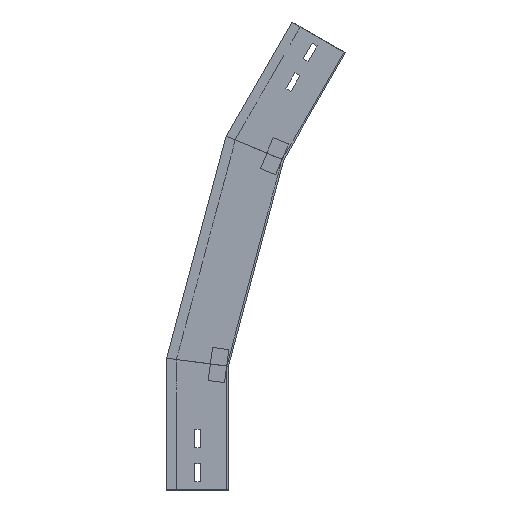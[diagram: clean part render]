
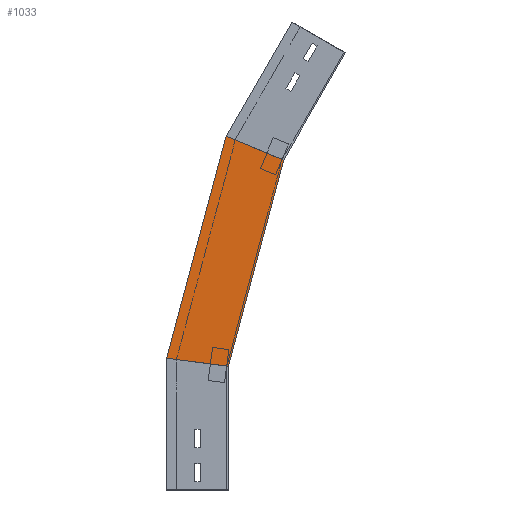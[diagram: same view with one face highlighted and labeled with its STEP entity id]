
A CAD part, left-side view. The second image highlights one B-rep face of the part: STEP entity #1033.
In plain terms, the highlighted planar face has unit normal (-1, 0, 0) as drawn and (1, 0, 0) by its records, which use the part's own axes.
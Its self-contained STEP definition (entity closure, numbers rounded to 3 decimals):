
#60 = PLANE ( 'NONE',  #179 ) ;
#133 = EDGE_CURVE ( 'NONE', #260, #1244, #520, .T. ) ;
#171 = DIRECTION ( 'NONE',  ( 0., -0.259, 0.966 ) ) ;
#179 = AXIS2_PLACEMENT_3D ( 'NONE', #1435, #1193, #626 ) ;
#201 = CARTESIAN_POINT ( 'NONE',  ( 0., 75., 159.874 ) ) ;
#202 = CARTESIAN_POINT ( 'NONE',  ( 0., -67.034, 400.175 ) ) ;
#243 = VERTEX_POINT ( 'NONE', #537 ) ;
#260 = VERTEX_POINT ( 'NONE', #201 ) ;
#295 = ORIENTED_EDGE ( 'NONE', *, *, #133, .T. ) ;
#326 = EDGE_CURVE ( 'NONE', #260, #243, #792, .T. ) ;
#390 = EDGE_CURVE ( 'NONE', #1244, #845, #648, .T. ) ;
#424 = EDGE_LOOP ( 'NONE', ( #295, #1266, #600, #1073 ) ) ;
#489 = CARTESIAN_POINT ( 'NONE',  ( 0., 75.281, 158.824 ) ) ;
#520 = LINE ( 'NONE', #489, #693 ) ;
#537 = CARTESIAN_POINT ( 'NONE',  ( 0., 0., 150. ) ) ;
#543 = CARTESIAN_POINT ( 'NONE',  ( 0., 2.855, 429.124 ) ) ;
#544 = DIRECTION ( 'NONE',  ( 0., -0.924, -0.383 ) ) ;
#600 = ORIENTED_EDGE ( 'NONE', *, *, #1041, .F. ) ;
#626 = DIRECTION ( 'NONE',  ( 0., 0., -1. ) ) ;
#648 = LINE ( 'NONE', #892, #817 ) ;
#693 = VECTOR ( 'NONE', #171, 1000. ) ;
#701 = VECTOR ( 'NONE', #1076, 1000. ) ;
#792 = LINE ( 'NONE', #1256, #1357 ) ;
#817 = VECTOR ( 'NONE', #544, 1000. ) ;
#845 = VERTEX_POINT ( 'NONE', #202 ) ;
#892 = CARTESIAN_POINT ( 'NONE',  ( 0., -99.589, 386.69 ) ) ;
#958 = FACE_OUTER_BOUND ( 'NONE', #424, .T. ) ;
#1033 = ADVANCED_FACE ( 'NONE', ( #958 ), #60, .T. ) ;
#1041 = EDGE_CURVE ( 'NONE', #243, #845, #1099, .T. ) ;
#1073 = ORIENTED_EDGE ( 'NONE', *, *, #326, .F. ) ;
#1076 = DIRECTION ( 'NONE',  ( 0., -0.259, 0.966 ) ) ;
#1099 = LINE ( 'NONE', #1309, #701 ) ;
#1133 = DIRECTION ( 'NONE',  ( 0., -0.991, -0.131 ) ) ;
#1193 = DIRECTION ( 'NONE',  ( 1., 0., 0. ) ) ;
#1244 = VERTEX_POINT ( 'NONE', #543 ) ;
#1256 = CARTESIAN_POINT ( 'NONE',  ( 0., -19.411, 147.444 ) ) ;
#1266 = ORIENTED_EDGE ( 'NONE', *, *, #390, .T. ) ;
#1309 = CARTESIAN_POINT ( 'NONE',  ( 0., 2.837, 139.412 ) ) ;
#1357 = VECTOR ( 'NONE', #1133, 1000. ) ;
#1435 = CARTESIAN_POINT ( 'NONE',  ( 0., 2.837, 139.412 ) ) ;
